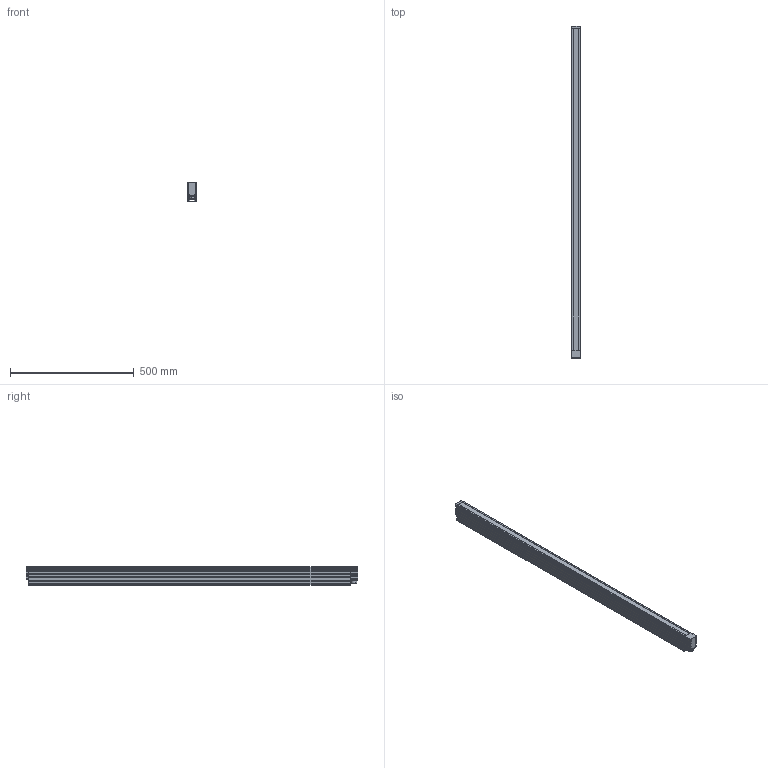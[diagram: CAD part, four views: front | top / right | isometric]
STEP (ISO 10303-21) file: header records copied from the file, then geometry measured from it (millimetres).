
FILE_DESCRIPTION (( 'STEP AP203' ), '1' );
FILE_NAME ('VLN (L_D)-1300W _ Drawing _ L1266A (L12781A_L1297A)-A00101.STEP', '2024-06-24T07:16:00', ( '' ), ( '' ), 'SwSTEP 2.0', 'SolidWorks 2020', '' );
FILE_SCHEMA (( 'CONFIG_CONTROL_DESIGN' ));
Length unit declared in the file: millimetre
Products named in the file (8): TMVLN0100D301A _ VLN 0100 主體 _ STEP  用; M3 X 6 扁頭 螺絲; VLN-100W _ TMVLN0100D303A _ VLN 側蓋 _ L1254A-M00301 _ STEP 用; M2 X 35 柱頭 內六角 螺絲; VLN (L_D)-1300W _ Drawing _ L1266A (L12781A_L1297A)-A00101; M2 X 12 柱頭 內六角 螺絲; VLN-100W _ TMVLN0100D304A _ VLN ｳsｱｵｾｹｺﾝｰｼｻ\ _ L1254A-M00401_ STEP･ﾎ; Nanaboshi NAW-202-RF 板裝連接器 + 防水墊
Assembly tree (24 placements, depth 2):
  VLN (L_D)-1300W _ Drawing _ L1266A (L12781A_L1297A)-A00101
    TMVLN0100D301A _ VLN 0100 主體 _ STEP  用
    VLN-100W _ TMVLN0100D303A _ VLN 側蓋 _ L1254A-M00301 _ STEP 用
    VLN-100W _ TMVLN0100D304A _ VLN ｳsｱｵｾｹｺﾝｰｼｻ\ _ L1254A-M00401_ STEP･ﾎ
    M2 X 12 柱頭 內六角 螺絲  x8
    M2 X 35 柱頭 內六角 螺絲  x8
    M3 X 6 扁頭 螺絲  x4
    Nanaboshi NAW-202-RF 板裝連接器 + 防水墊
Bounding box: 40 x 1342 x 75 mm (x, y, z)
Volume: 3034323.5 mm3; surface area: 721396.5 mm2
Topology: 24 solids, 24 shells, 1158 faces, 2741 edges, 1722 vertices
Faces by surface type: plane 594, cylinder 372, torus 119, cone 48, bspline 21, sphere 4
Entity records: 26874 total; most frequent: CARTESIAN_POINT 6179, ORIENTED_EDGE 4050, DIRECTION 3981, EDGE_CURVE 2025, VECTOR 1375, LINE 1375, AXIS2_PLACEMENT_3D 1303, VERTEX_POINT 1280
